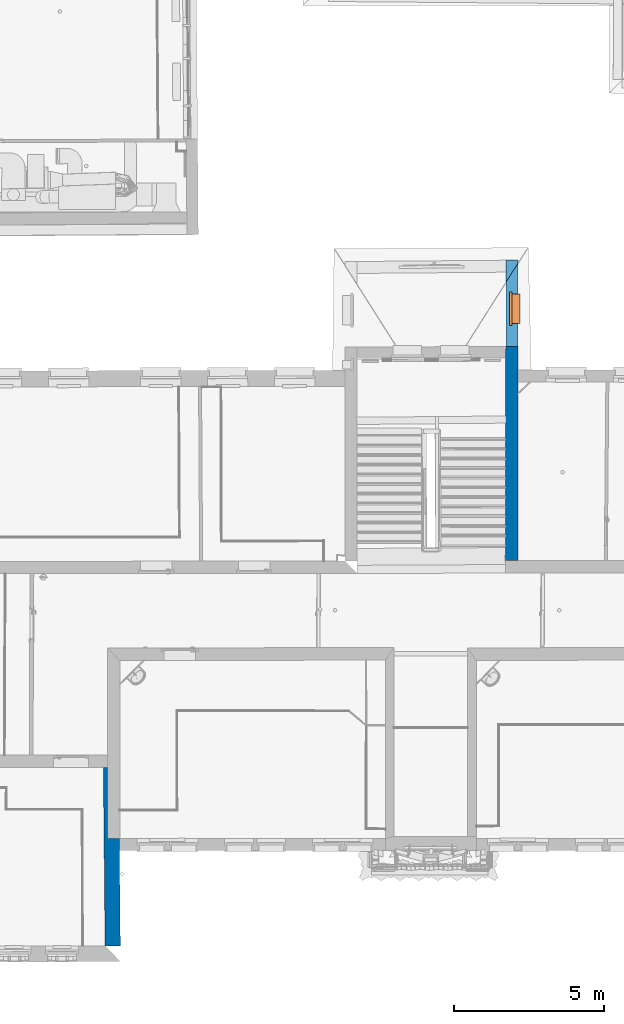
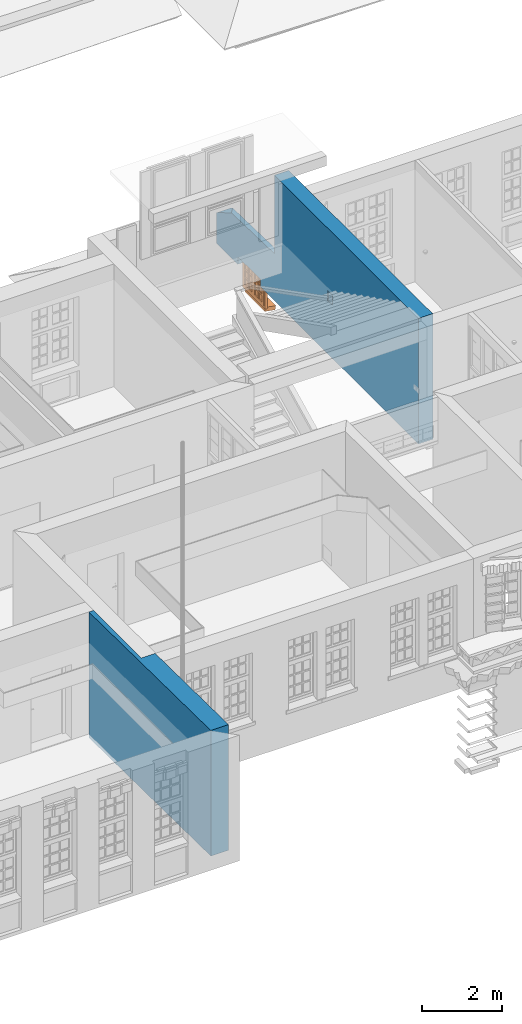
# One storey, part 66 of 158: 2 walls, 1 proxy, 1 opening.
"""IFC2X3 building model written with IfcOpenShell, lengths in metres."""

from ifc_helpers import new_model, entity, si_unit, converted_unit, derived_unit, money_unit, direction, frame, origin_with_axes, origin_2d_with_axis, place, context, subcontext, project, spatial, polyline, rectangle, outline, extrude, boolean, faceted_brep, source, transform, mapped, material, type_object, element, fill, save


model = new_model("IFC2X3")

# Units and contexts
model_context = context("Model", 3, precision=1e-05, world=origin_with_axes(), true_north=direction((0.0, 1.0)))
body_context = subcontext(model_context, "Body", "Model", "MODEL_VIEW")
ifc_project = project(units=[si_unit("LENGTHUNIT", "METRE"), si_unit("AREAUNIT", "SQUARE_METRE"), si_unit("VOLUMEUNIT", "CUBIC_METRE"), converted_unit("PLANEANGLEUNIT", "DEGREE", entity("IfcPlaneAngleMeasure", 0.0174532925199), si_unit("PLANEANGLEUNIT", "RADIAN"), dimensions=[0, 0, 0, 0, 0, 0, 0]), money_unit("EUR"), converted_unit("TIMEUNIT", "Year", entity("IfcTimeMeasure", 31556926.0), si_unit("TIMEUNIT", "SECOND"), dimensions=[0, 0, 1, 0, 0, 0, 0]), si_unit("MASSUNIT", "GRAM", prefix="KILO"), si_unit("THERMODYNAMICTEMPERATUREUNIT", "DEGREE_CELSIUS"), si_unit("LUMINOUSINTENSITYUNIT", "LUMEN"), si_unit("ENERGYUNIT", "JOULE", prefix="MEGA"), derived_unit("THERMALCONDUCTANCEUNIT", [(si_unit("POWERUNIT", "WATT"), 1), (si_unit("LENGTHUNIT", "METRE"), -1), (si_unit("THERMODYNAMICTEMPERATUREUNIT", "KELVIN"), -1)]), derived_unit("SPECIFICHEATCAPACITYUNIT", [(si_unit("ENERGYUNIT", "JOULE"), 1), (si_unit("MASSUNIT", "GRAM", prefix="KILO"), -1), (si_unit("THERMODYNAMICTEMPERATUREUNIT", "KELVIN"), -1)]), derived_unit("MASSDENSITYUNIT", [(si_unit("MASSUNIT", "GRAM", prefix="KILO"), 1), (si_unit("VOLUMEUNIT", "CUBIC_METRE"), -1)])], contexts=[model_context])

# Site, building, storey
site_placement = place(None, origin_with_axes())
site = spatial("IfcSite", under=ifc_project, at=site_placement, Name="Gelände", CompositionType="ELEMENT")
building_placement = place(site_placement, origin_with_axes())
building = spatial("IfcBuilding", under=site, at=building_placement, Name="Gebäude", CompositionType="ELEMENT")
storey_placement = place(building_placement, origin_with_axes())
storey = spatial("IfcBuildingStorey", under=building, at=storey_placement, Name="ERDGESCHOSS", CompositionType="ELEMENT", Elevation=0.0)

# Wall
ifc_material = material(Name="05_ALLGEMEIN - TRAGENDE BAUTEILE")
wall_type_1 = type_object("IfcWallType", Name="05_ALLGEMEIN - TRAGENDE BAUTEILE 510", PredefinedType="ELEMENTEDWALL")
wall_1_placement = place(storey_placement, frame((-17.7552910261, 6.28208154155, -0.21), z_axis=(0.0, 0.0, 1.0), x_axis=(-0.00971979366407, 0.99995276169, 0.0)))
element("IfcWall", 1, at=wall_1_placement, inside=storey, type_object=wall_type_1, material=ifc_material, Name="Wand-029", ObjectType="ELEMENTEDWALL", context=body_context, shape_type="CSG", body=[
    boolean("DIFFERENCE", boolean("DIFFERENCE", extrude(outline(polyline([(0.0, 0.0), (6.91708210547, 0.0), (6.91708210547, 0.51), (0.0, 0.51), (0.0, 0.0)])), origin_with_axes(), (0.0, 0.0, 1.0), 3.81), faceted_brep([(6.4960462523, 0.373654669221, 3.81), (4.12092826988, 0.398424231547, 3.81), (4.1170854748, 0.0, 3.81), (6.91708210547, 0.0, 3.81), (6.91708210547, 0.51, 3.81), (6.49707026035, 0.51, 3.81), (6.4960462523, 0.373654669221, 0.0), (4.12092826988, 0.398424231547, 0.0), (4.1170854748, 0.0, 0.0), (6.91708210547, 0.0, 0.0), (6.91708210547, 0.51, 0.0), (6.49707026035, 0.51, 0.0)], [[[0, 1, 2, 3, 4, 5]], [[1, 0, 6, 7]], [[8, 2, 1, 7]], [[2, 8, 9, 3]], [[3, 9, 10, 4]], [[11, 5, 4, 10]], [[0, 5, 11, 6]], [[6, 11, 10, 9, 8, 7]]])), faceted_brep([(0.530015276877, 0.0, 0.0), (0.530015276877, 0.0, 3.81), (0.0, 0.0, 3.81), (0.0, 0.0, 0.0), (0.533887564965, 0.51, 3.81), (0.533887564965, 0.51, 0.0), (0.0, 0.51, 3.81), (0.0, 0.51, 0.0)], [[[0, 1, 2, 3]], [[4, 1, 0, 5]], [[1, 4, 6, 2]], [[6, 7, 3, 2]], [[5, 0, 3, 7]], [[4, 5, 7, 6]]])),
])

# Wall, opening, proxy
wall_type_2 = type_object("IfcWallType", Name="05_ALLGEMEIN - TRAGENDE BAUTEILE 410", PredefinedType="ELEMENTEDWALL")
wall_2_placement = place(storey_placement, frame((-4.46533827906, 19.2762494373, -0.21), z_axis=(0.0, 0.0, 1.0), x_axis=(0.000440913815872, 0.999999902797, 0.0)))
wall_2 = element("IfcWall", 2, at=wall_2_placement, inside=storey, type_object=wall_type_2, material=ifc_material, Name="Wand-038", ObjectType="ELEMENTEDWALL", context=body_context, shape_type="CSG", body=[
    boolean("DIFFERENCE", boolean("DIFFERENCE", boolean("DIFFERENCE", extrude(outline(polyline([(-0.000300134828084, 0.0), (10.4657454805, 0.0), (10.4657454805, 0.41), (-0.000300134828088, 0.41), (-0.000300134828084, 0.0)])), origin_with_axes(), (0.0, 0.0, 1.0), 3.81), faceted_brep([(4.68833772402, 0.41, 1.61043633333), (4.68833772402, 0.41, 1.92000015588), (7.19598601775, 0.41, 1.92), (7.19598601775, 0.41, 1.83), (4.92919751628, 0.410000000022, 1.83), (4.92919751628, 0.41, 1.61043633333), (4.68842437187, 0.392243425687, 1.61043633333), (4.68842437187, 0.392243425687, 1.92000015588), (4.9292784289, 0.393418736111, 1.92000015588), (4.92919948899, 0.409595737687, 1.92000015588), (4.92919948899, 0.409595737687, 1.83), (4.9292784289, 0.393418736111, 1.61043633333)], [[[0, 1, 2, 3, 4, 5]], [[1, 0, 6, 7]], [[2, 1, 7, 8, 9]], [[3, 2, 9, 10]], [[4, 3, 10]], [[5, 4, 10, 9, 8, 11]], [[0, 5, 11, 6]], [[8, 7, 6, 11]]])), faceted_brep([(0.414615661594, 0.0, 0.0), (0.414615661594, 0.0, 3.81), (-0.000300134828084, 0.0, 3.81), (-0.000300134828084, 0.0, 0.0), (0.414315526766, 0.41, 3.81), (0.414315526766, 0.41, 0.0), (-0.000300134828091, 0.41, 3.81), (-0.000300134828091, 0.41, 0.0)], [[[0, 1, 2, 3]], [[4, 1, 0, 5]], [[1, 4, 6, 2]], [[6, 7, 3, 2]], [[5, 0, 3, 7]], [[4, 5, 7, 6]]])), faceted_brep([(7.58287212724, -1.33577593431e-10, 1.05887380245), (10.3647588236, -1.091498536e-08, 0.983076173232), (10.4657454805, 0.0, 0.922282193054), (10.4657454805, 0.0, 3.81), (7.58287212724, -1.33577593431e-10, 3.81), (7.58050945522, 0.41, 1.43028122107), (9.71842443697, 0.409999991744, 1.37202978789), (10.4620406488, 0.41, 0.924372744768), (10.4657454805, 0.0, 0.0), (10.4657454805, 0.41, 0.0), (10.4657454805, 0.41, 3.81), (7.58050945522, 0.41, 3.81), (10.4620406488, 0.41, 0.0)], [[[0, 1, 2, 3, 4]], [[1, 0, 5, 6]], [[2, 1, 6, 7]], [[2, 8, 9, 10, 3]], [[11, 4, 3, 10]], [[0, 4, 11, 5]], [[5, 11, 10, 9, 12, 7, 6]], [[8, 2, 7, 12]], [[8, 12, 9]]])),
])
opening_placement = place(wall_2_placement, frame((8.83731779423, 0.0, -0.725295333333), z_axis=(0.0, 0.0, 1.0), x_axis=(1.0, 0.0, 0.0)))
opening = element("IfcOpeningElement", 3, at=opening_placement, cuts=wall_2, Name="Fenster-015", context=body_context, shape_type="SweptSolid", body=[
    extrude(rectangle(XDim=0.991326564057, YDim=0.884032, at=origin_2d_with_axis()), frame((0.0, 0.208421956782, 0.442016), z_axis=(0.0, 1.0, 0.0), x_axis=(1.0, 0.0, 0.0)), (0.0, 0.0, -1.0), 0.618421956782),
    extrude(rectangle(XDim=1.13132656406, YDim=0.954032, at=origin_2d_with_axis()), frame((0.0, 0.208421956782, 0.477016), z_axis=(0.0, -1.0, 0.0), x_axis=(1.0, 0.0, 0.0)), (0.0, 0.0, -1.0), 0.611578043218),
    extrude(rectangle(XDim=0.991326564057, YDim=0.162128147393, at=origin_2d_with_axis()), frame((0.0, 0.249259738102, -0.0810640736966), z_axis=(0.0, 1.0, 0.0), x_axis=(1.0, 0.0, 0.0)), (0.0, 0.0, -1.0), 0.45083778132),
])
building_element_proxy_type = type_object("IfcBuildingElementProxyType", Name="2-Flügelfenster 25", PredefinedType="NOTDEFINED")
shared_shape = source(origin_with_axes(), body_context, "Body", "Brep", [
    faceted_brep([(-0.495663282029, -0.05, 0.0), (-0.495663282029, -0.349259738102, -0.0527675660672), (0.495663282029, -0.349259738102, -0.0527675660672), (0.495663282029, -0.05, 0.0), (-0.495663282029, -0.02916221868, -0.118176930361), (-0.495663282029, -0.328421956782, -0.170944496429), (0.495663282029, -0.328421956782, -0.170944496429), (0.495663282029, -0.02916221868, -0.118176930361)], [[[0, 1, 2, 3]], [[0, 4, 5, 1]], [[1, 5, 6, 2]], [[3, 2, 6, 7]], [[4, 0, 3, 7]], [[5, 4, 7, 6]]]),
    faceted_brep([(-0.565663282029, -0.07, 0.0), (-0.565663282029, 0.0, 0.0), (-0.485663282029, 0.0, 0.08), (-0.485663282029, -0.07, 0.08), (-0.565663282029, -0.07, 0.954032), (-0.565663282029, 0.0, 0.954032), (-0.485663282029, 0.0, 0.874032), (-0.485663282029, -0.07, 0.874032)], [[[0, 1, 2, 3]], [[4, 5, 1, 0]], [[1, 5, 6, 2]], [[3, 2, 6, 7]], [[0, 3, 7, 4]], [[7, 6, 5, 4]]]),
    faceted_brep([(0.565663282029, -0.07, 0.0), (0.565663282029, 0.0, 0.0), (0.565663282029, 0.0, 0.954032), (0.565663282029, -0.07, 0.954032), (0.485663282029, -0.07, 0.08), (0.485663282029, 0.0, 0.08), (0.485663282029, 0.0, 0.874032), (0.485663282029, -0.07, 0.874032)], [[[0, 1, 2, 3]], [[4, 5, 1, 0]], [[1, 5, 6, 2]], [[3, 2, 6, 7]], [[0, 3, 7, 4]], [[7, 6, 5, 4]]]),
    faceted_brep([(-0.565663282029, -0.07, 0.0), (-0.565663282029, 0.0, 0.0), (0.565663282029, 0.0, 0.0), (0.565663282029, -0.07, 0.0), (-0.485663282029, -0.07, 0.08), (-0.485663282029, 0.0, 0.08), (0.0, 0.0, 0.08), (0.485663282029, 0.0, 0.08), (0.485663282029, -0.07, 0.08), (0.0, -0.07, 0.08)], [[[0, 1, 2, 3]], [[4, 5, 1, 0]], [[1, 5, 6, 7, 2]], [[3, 2, 7, 8]], [[0, 3, 8, 9, 4]], [[9, 6, 5, 4]], [[8, 7, 6, 9]]]),
    faceted_brep([(-0.565663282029, -0.07, 0.954032), (-0.565663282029, 0.0, 0.954032), (-0.485663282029, 0.0, 0.874032), (-0.485663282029, -0.07, 0.874032), (0.565663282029, -0.07, 0.954032), (0.565663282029, 0.0, 0.954032), (0.485663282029, 0.0, 0.874032), (0.0, 0.0, 0.874032), (0.0, -0.07, 0.874032), (0.485663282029, -0.07, 0.874032)], [[[0, 1, 2, 3]], [[4, 5, 1, 0]], [[1, 5, 6, 7, 2]], [[3, 2, 7, 8]], [[0, 3, 8, 9, 4]], [[9, 6, 5, 4]], [[8, 7, 6, 9]]]),
    faceted_brep([(-0.505663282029, 0.0, 0.06), (-0.505663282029, 0.013, 0.06), (-0.425663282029, 0.013, 0.14), (-0.425663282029, 0.0, 0.14), (-0.505663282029, 0.0, 0.894032), (-0.505663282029, 0.013, 0.894032), (-0.425663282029, 0.013, 0.814032), (-0.425663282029, 0.0, 0.814032)], [[[0, 1, 2, 3]], [[4, 5, 1, 0]], [[1, 5, 6, 2]], [[3, 2, 6, 7]], [[0, 3, 7, 4]], [[7, 6, 5, 4]]]),
    faceted_brep([(-0.01, 0.0, 0.06), (-0.01, 0.013, 0.06), (-0.01, 0.013, 0.894032), (-0.01, 0.0, 0.894032), (-0.07, 0.0, 0.14), (-0.07, 0.013, 0.14), (-0.07, 0.013, 0.814032), (-0.07, 0.0, 0.814032)], [[[0, 1, 2, 3]], [[4, 5, 1, 0]], [[1, 5, 6, 2]], [[3, 2, 6, 7]], [[0, 3, 7, 4]], [[7, 6, 5, 4]]]),
    faceted_brep([(-0.505663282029, 0.0, 0.06), (-0.505663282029, 0.013, 0.06), (-0.01, 0.013, 0.06), (-0.01, 0.0, 0.06), (-0.425663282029, 0.0, 0.14), (-0.425663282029, 0.013, 0.14), (-0.07, 0.013, 0.14), (-0.07, 0.0, 0.14)], [[[0, 1, 2, 3]], [[4, 5, 1, 0]], [[1, 5, 6, 2]], [[3, 2, 6, 7]], [[0, 3, 7, 4]], [[7, 6, 5, 4]]]),
    faceted_brep([(-0.505663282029, 0.0, 0.894032), (-0.505663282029, 0.013, 0.894032), (-0.425663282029, 0.013, 0.814032), (-0.425663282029, 0.0, 0.814032), (-0.01, 0.0, 0.894032), (-0.01, 0.013, 0.894032), (-0.07, 0.013, 0.814032), (-0.07, 0.0, 0.814032)], [[[0, 1, 2, 3]], [[4, 5, 1, 0]], [[1, 5, 6, 2]], [[3, 2, 6, 7]], [[0, 3, 7, 4]], [[7, 6, 5, 4]]]),
    faceted_brep([(-0.485663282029, -0.057, 0.08), (-0.485663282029, 0.0, 0.08), (-0.425663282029, 0.0, 0.14), (-0.425663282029, -0.057, 0.14), (-0.485663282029, -0.057, 0.874032), (-0.485663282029, 0.0, 0.874032), (-0.425663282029, 0.0, 0.814032), (-0.425663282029, -0.057, 0.814032)], [[[0, 1, 2, 3]], [[4, 5, 1, 0]], [[1, 5, 6, 2]], [[3, 2, 6, 7]], [[0, 3, 7, 4]], [[7, 6, 5, 4]]]),
    faceted_brep([(0.01, -0.057, 0.08), (0.01, 0.0, 0.08), (0.01, 0.0, 0.874032), (0.01, -0.057, 0.874032), (-0.07, -0.057, 0.14), (-0.07, 0.0, 0.14), (-0.07, 0.0, 0.814032), (-0.07, -0.057, 0.814032)], [[[0, 1, 2, 3]], [[4, 5, 1, 0]], [[1, 5, 6, 2]], [[3, 2, 6, 7]], [[0, 3, 7, 4]], [[7, 6, 5, 4]]]),
    faceted_brep([(-0.485663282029, -0.057, 0.08), (-0.485663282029, 0.0, 0.08), (0.01, 0.0, 0.08), (0.01, -0.057, 0.08), (-0.425663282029, -0.057, 0.14), (-0.425663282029, 0.0, 0.14), (-0.07, 0.0, 0.14), (-0.07, -0.057, 0.14)], [[[0, 1, 2, 3]], [[4, 5, 1, 0]], [[1, 5, 6, 2]], [[3, 2, 6, 7]], [[0, 3, 7, 4]], [[7, 6, 5, 4]]]),
    faceted_brep([(-0.485663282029, -0.057, 0.874032), (-0.485663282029, 0.0, 0.874032), (-0.425663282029, 0.0, 0.814032), (-0.425663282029, -0.057, 0.814032), (0.01, -0.057, 0.874032), (0.01, 0.0, 0.874032), (-0.07, 0.0, 0.814032), (-0.07, -0.057, 0.814032)], [[[0, 1, 2, 3]], [[4, 5, 1, 0]], [[1, 5, 6, 2]], [[3, 2, 6, 7]], [[0, 3, 7, 4]], [[7, 6, 5, 4]]]),
    faceted_brep([(-0.265331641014, -0.057, 0.14), (-0.265331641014, -0.022, 0.14), (-0.230331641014, -0.022, 0.14), (-0.230331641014, -0.057, 0.14), (-0.265331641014, -0.057, 0.814032), (-0.265331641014, -0.022, 0.814032), (-0.230331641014, -0.022, 0.814032), (-0.230331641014, -0.057, 0.814032)], [[[0, 1, 2, 3]], [[4, 5, 1, 0]], [[1, 5, 6, 2]], [[3, 2, 6, 7]], [[0, 3, 7, 4]], [[7, 6, 5, 4]]]),
    faceted_brep([(-0.265331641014, -0.022, 0.14), (-0.265331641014, 0.013, 0.14), (-0.230331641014, 0.013, 0.14), (-0.230331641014, -0.022, 0.14), (-0.265331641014, -0.022, 0.814032), (-0.265331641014, 0.013, 0.814032), (-0.230331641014, 0.013, 0.814032), (-0.230331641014, -0.022, 0.814032)], [[[0, 1, 2, 3]], [[4, 5, 1, 0]], [[1, 5, 6, 2]], [[3, 2, 6, 7]], [[0, 3, 7, 4]], [[7, 6, 5, 4]]]),
    faceted_brep([(-0.265331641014, -0.057, 0.341344), (-0.265331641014, -0.057, 0.376344), (-0.425663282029, -0.057, 0.376344), (-0.425663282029, -0.057, 0.341344), (-0.265331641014, -0.022, 0.376344), (-0.265331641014, -0.022, 0.341344), (-0.425663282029, -0.022, 0.376344), (-0.425663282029, -0.022, 0.341344)], [[[0, 1, 2, 3]], [[4, 1, 0, 5]], [[1, 4, 6, 2]], [[6, 7, 3, 2]], [[5, 0, 3, 7]], [[4, 5, 7, 6]]]),
    faceted_brep([(-0.230331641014, -0.022, 0.376344), (-0.230331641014, -0.057, 0.376344), (-0.07, -0.057, 0.376344), (-0.07, -0.022, 0.376344), (-0.230331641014, -0.057, 0.341344), (-0.230331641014, -0.022, 0.341344), (-0.07, -0.057, 0.341344), (-0.07, -0.022, 0.341344)], [[[0, 1, 2, 3]], [[4, 1, 0, 5]], [[1, 4, 6, 2]], [[7, 3, 2, 6]], [[5, 0, 3, 7]], [[4, 5, 7, 6]]]),
    faceted_brep([(-0.265331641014, -0.022, 0.341344), (-0.265331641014, -0.022, 0.376344), (-0.425663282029, -0.022, 0.376344), (-0.425663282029, -0.022, 0.341344), (-0.265331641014, 0.013, 0.376344), (-0.265331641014, 0.013, 0.341344), (-0.425663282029, 0.013, 0.376344), (-0.425663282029, 0.013, 0.341344)], [[[0, 1, 2, 3]], [[4, 1, 0, 5]], [[1, 4, 6, 2]], [[6, 7, 3, 2]], [[5, 0, 3, 7]], [[4, 5, 7, 6]]]),
    faceted_brep([(-0.230331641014, 0.013, 0.376344), (-0.230331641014, -0.022, 0.376344), (-0.07, -0.022, 0.376344), (-0.07, 0.013, 0.376344), (-0.230331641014, -0.022, 0.341344), (-0.230331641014, 0.013, 0.341344), (-0.07, -0.022, 0.341344), (-0.07, 0.013, 0.341344)], [[[0, 1, 2, 3]], [[4, 1, 0, 5]], [[1, 4, 6, 2]], [[7, 3, 2, 6]], [[5, 0, 3, 7]], [[4, 5, 7, 6]]]),
    faceted_brep([(-0.265331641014, -0.057, 0.577688), (-0.265331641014, -0.057, 0.612688), (-0.425663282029, -0.057, 0.612688), (-0.425663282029, -0.057, 0.577688), (-0.265331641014, -0.022, 0.612688), (-0.265331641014, -0.022, 0.577688), (-0.425663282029, -0.022, 0.612688), (-0.425663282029, -0.022, 0.577688)], [[[0, 1, 2, 3]], [[4, 1, 0, 5]], [[1, 4, 6, 2]], [[6, 7, 3, 2]], [[5, 0, 3, 7]], [[4, 5, 7, 6]]]),
    faceted_brep([(-0.230331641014, -0.022, 0.612688), (-0.230331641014, -0.057, 0.612688), (-0.07, -0.057, 0.612688), (-0.07, -0.022, 0.612688), (-0.230331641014, -0.057, 0.577688), (-0.230331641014, -0.022, 0.577688), (-0.07, -0.057, 0.577688), (-0.07, -0.022, 0.577688)], [[[0, 1, 2, 3]], [[4, 1, 0, 5]], [[1, 4, 6, 2]], [[7, 3, 2, 6]], [[5, 0, 3, 7]], [[4, 5, 7, 6]]]),
    faceted_brep([(-0.265331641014, -0.022, 0.577688), (-0.265331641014, -0.022, 0.612688), (-0.425663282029, -0.022, 0.612688), (-0.425663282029, -0.022, 0.577688), (-0.265331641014, 0.013, 0.612688), (-0.265331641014, 0.013, 0.577688), (-0.425663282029, 0.013, 0.612688), (-0.425663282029, 0.013, 0.577688)], [[[0, 1, 2, 3]], [[4, 1, 0, 5]], [[1, 4, 6, 2]], [[6, 7, 3, 2]], [[5, 0, 3, 7]], [[4, 5, 7, 6]]]),
    faceted_brep([(-0.230331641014, 0.013, 0.612688), (-0.230331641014, -0.022, 0.612688), (-0.07, -0.022, 0.612688), (-0.07, 0.013, 0.612688), (-0.230331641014, -0.022, 0.577688), (-0.230331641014, 0.013, 0.577688), (-0.07, -0.022, 0.577688), (-0.07, 0.013, 0.577688)], [[[0, 1, 2, 3]], [[4, 1, 0, 5]], [[1, 4, 6, 2]], [[7, 3, 2, 6]], [[5, 0, 3, 7]], [[4, 5, 7, 6]]]),
    faceted_brep([(-0.265331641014, -0.017, 0.577688), (-0.265331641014, -0.027, 0.577688), (-0.265331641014, -0.027, 0.376344), (-0.265331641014, -0.017, 0.376344), (-0.425663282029, -0.027, 0.577688), (-0.425663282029, -0.017, 0.577688), (-0.425663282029, -0.027, 0.376344), (-0.425663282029, -0.017, 0.376344)], [[[0, 1, 2, 3]], [[4, 1, 0, 5]], [[1, 4, 6, 2]], [[2, 6, 7, 3]], [[5, 0, 3, 7]], [[4, 5, 7, 6]]]),
    faceted_brep([(-0.07, -0.027, 0.14), (-0.07, -0.017, 0.14), (-0.07, -0.017, 0.341344), (-0.07, -0.027, 0.341344), (-0.230331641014, -0.027, 0.14), (-0.230331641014, -0.017, 0.14), (-0.230331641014, -0.017, 0.341344), (-0.230331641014, -0.027, 0.341344)], [[[0, 1, 2, 3]], [[0, 4, 5, 1]], [[1, 5, 6, 2]], [[2, 6, 7, 3]], [[4, 0, 3, 7]], [[5, 4, 7, 6]]]),
    faceted_brep([(-0.265331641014, -0.027, 0.14), (-0.265331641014, -0.017, 0.14), (-0.265331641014, -0.017, 0.341344), (-0.265331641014, -0.027, 0.341344), (-0.425663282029, -0.017, 0.14), (-0.425663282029, -0.027, 0.14), (-0.425663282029, -0.017, 0.341344), (-0.425663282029, -0.027, 0.341344)], [[[0, 1, 2, 3]], [[4, 1, 0, 5]], [[1, 4, 6, 2]], [[2, 6, 7, 3]], [[5, 0, 3, 7]], [[4, 5, 7, 6]]]),
    faceted_brep([(-0.07, -0.017, 0.577688), (-0.07, -0.027, 0.577688), (-0.07, -0.027, 0.376344), (-0.07, -0.017, 0.376344), (-0.230331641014, -0.027, 0.577688), (-0.230331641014, -0.017, 0.577688), (-0.230331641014, -0.027, 0.376344), (-0.230331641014, -0.017, 0.376344)], [[[0, 1, 2, 3]], [[4, 1, 0, 5]], [[1, 4, 6, 2]], [[2, 6, 7, 3]], [[5, 0, 3, 7]], [[4, 5, 7, 6]]]),
    faceted_brep([(-0.425663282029, -0.027, 0.612688), (-0.265331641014, -0.027, 0.612688), (-0.265331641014, -0.027, 0.814032), (-0.425663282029, -0.027, 0.814032), (-0.265331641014, -0.017, 0.612688), (-0.425663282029, -0.017, 0.612688), (-0.265331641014, -0.017, 0.814032), (-0.425663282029, -0.017, 0.814032)], [[[0, 1, 2, 3]], [[4, 1, 0, 5]], [[1, 4, 6, 2]], [[7, 3, 2, 6]], [[5, 0, 3, 7]], [[4, 5, 7, 6]]]),
    faceted_brep([(-0.230331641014, -0.027, 0.612688), (-0.07, -0.027, 0.612688), (-0.07, -0.027, 0.814032), (-0.230331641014, -0.027, 0.814032), (-0.07, -0.017, 0.612688), (-0.230331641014, -0.017, 0.612688), (-0.07, -0.017, 0.814032), (-0.230331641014, -0.017, 0.814032)], [[[0, 1, 2, 3]], [[4, 1, 0, 5]], [[1, 4, 6, 2]], [[2, 6, 7, 3]], [[5, 0, 3, 7]], [[4, 5, 7, 6]]]),
    faceted_brep([(-0.01, 0.0, 0.06), (-0.01, 0.013, 0.06), (0.07, 0.013, 0.14), (0.07, 0.0, 0.14), (-0.01, 0.0, 0.894032), (-0.01, 0.013, 0.894032), (0.07, 0.013, 0.814032), (0.07, 0.0, 0.814032)], [[[0, 1, 2, 3]], [[4, 5, 1, 0]], [[1, 5, 6, 2]], [[3, 2, 6, 7]], [[0, 3, 7, 4]], [[7, 6, 5, 4]]]),
    faceted_brep([(0.505663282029, 0.0, 0.06), (0.425663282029, 0.0, 0.14), (0.425663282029, 0.013, 0.14), (0.505663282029, 0.013, 0.06), (0.505663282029, 0.0, 0.894032), (0.425663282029, 0.0, 0.814032), (0.425663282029, 0.013, 0.814032), (0.505663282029, 0.013, 0.894032)], [[[0, 1, 2, 3]], [[0, 4, 5, 1]], [[1, 5, 6, 2]], [[3, 2, 6, 7]], [[4, 0, 3, 7]], [[5, 4, 7, 6]]]),
    faceted_brep([(-0.01, 0.0, 0.06), (-0.01, 0.013, 0.06), (0.505663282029, 0.013, 0.06), (0.505663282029, 0.0, 0.06), (0.07, 0.0, 0.14), (0.07, 0.013, 0.14), (0.425663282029, 0.013, 0.14), (0.425663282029, 0.0, 0.14)], [[[0, 1, 2, 3]], [[4, 5, 1, 0]], [[1, 5, 6, 2]], [[3, 2, 6, 7]], [[0, 3, 7, 4]], [[7, 6, 5, 4]]]),
    faceted_brep([(-0.01, 0.0, 0.894032), (0.505663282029, 0.0, 0.894032), (0.505663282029, 0.013, 0.894032), (-0.01, 0.013, 0.894032), (0.07, 0.0, 0.814032), (0.425663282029, 0.0, 0.814032), (0.425663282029, 0.013, 0.814032), (0.07, 0.013, 0.814032)], [[[0, 1, 2, 3]], [[0, 4, 5, 1]], [[1, 5, 6, 2]], [[3, 2, 6, 7]], [[4, 0, 3, 7]], [[5, 4, 7, 6]]]),
    faceted_brep([(0.01, -0.057, 0.08), (0.01, 0.0, 0.08), (0.07, 0.0, 0.14), (0.07, -0.057, 0.14), (0.01, -0.057, 0.874032), (0.01, 0.0, 0.874032), (0.07, 0.0, 0.814032), (0.07, -0.057, 0.814032)], [[[0, 1, 2, 3]], [[4, 5, 1, 0]], [[1, 5, 6, 2]], [[3, 2, 6, 7]], [[0, 3, 7, 4]], [[7, 6, 5, 4]]]),
    faceted_brep([(0.485663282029, -0.057, 0.08), (0.425663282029, -0.057, 0.14), (0.425663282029, 0.0, 0.14), (0.485663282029, 0.0, 0.08), (0.485663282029, -0.057, 0.874032), (0.425663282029, -0.057, 0.814032), (0.425663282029, 0.0, 0.814032), (0.485663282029, 0.0, 0.874032)], [[[0, 1, 2, 3]], [[0, 4, 5, 1]], [[1, 5, 6, 2]], [[3, 2, 6, 7]], [[4, 0, 3, 7]], [[5, 4, 7, 6]]]),
    faceted_brep([(0.01, -0.057, 0.08), (0.01, 0.0, 0.08), (0.485663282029, 0.0, 0.08), (0.485663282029, -0.057, 0.08), (0.07, -0.057, 0.14), (0.07, 0.0, 0.14), (0.425663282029, 0.0, 0.14), (0.425663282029, -0.057, 0.14)], [[[0, 1, 2, 3]], [[4, 5, 1, 0]], [[1, 5, 6, 2]], [[3, 2, 6, 7]], [[0, 3, 7, 4]], [[7, 6, 5, 4]]]),
    faceted_brep([(0.01, -0.057, 0.874032), (0.485663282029, -0.057, 0.874032), (0.485663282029, 0.0, 0.874032), (0.01, 0.0, 0.874032), (0.07, -0.057, 0.814032), (0.425663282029, -0.057, 0.814032), (0.425663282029, 0.0, 0.814032), (0.07, 0.0, 0.814032)], [[[0, 1, 2, 3]], [[0, 4, 5, 1]], [[1, 5, 6, 2]], [[3, 2, 6, 7]], [[4, 0, 3, 7]], [[5, 4, 7, 6]]]),
    faceted_brep([(0.230331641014, -0.057, 0.14), (0.230331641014, -0.022, 0.14), (0.265331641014, -0.022, 0.14), (0.265331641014, -0.057, 0.14), (0.230331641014, -0.057, 0.814032), (0.230331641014, -0.022, 0.814032), (0.265331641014, -0.022, 0.814032), (0.265331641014, -0.057, 0.814032)], [[[0, 1, 2, 3]], [[4, 5, 1, 0]], [[1, 5, 6, 2]], [[3, 2, 6, 7]], [[0, 3, 7, 4]], [[7, 6, 5, 4]]]),
    faceted_brep([(0.230331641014, -0.022, 0.14), (0.230331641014, 0.013, 0.14), (0.265331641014, 0.013, 0.14), (0.265331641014, -0.022, 0.14), (0.230331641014, -0.022, 0.814032), (0.230331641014, 0.013, 0.814032), (0.265331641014, 0.013, 0.814032), (0.265331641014, -0.022, 0.814032)], [[[0, 1, 2, 3]], [[4, 5, 1, 0]], [[1, 5, 6, 2]], [[3, 2, 6, 7]], [[0, 3, 7, 4]], [[7, 6, 5, 4]]]),
    faceted_brep([(0.230331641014, -0.057, 0.341344), (0.230331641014, -0.057, 0.376344), (0.07, -0.057, 0.376344), (0.07, -0.057, 0.341344), (0.230331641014, -0.022, 0.376344), (0.230331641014, -0.022, 0.341344), (0.07, -0.022, 0.376344), (0.07, -0.022, 0.341344)], [[[0, 1, 2, 3]], [[4, 1, 0, 5]], [[1, 4, 6, 2]], [[6, 7, 3, 2]], [[5, 0, 3, 7]], [[4, 5, 7, 6]]]),
    faceted_brep([(0.265331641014, -0.022, 0.376344), (0.265331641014, -0.057, 0.376344), (0.425663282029, -0.057, 0.376344), (0.425663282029, -0.022, 0.376344), (0.265331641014, -0.057, 0.341344), (0.265331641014, -0.022, 0.341344), (0.425663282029, -0.057, 0.341344), (0.425663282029, -0.022, 0.341344)], [[[0, 1, 2, 3]], [[4, 1, 0, 5]], [[1, 4, 6, 2]], [[7, 3, 2, 6]], [[5, 0, 3, 7]], [[4, 5, 7, 6]]]),
    faceted_brep([(0.230331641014, -0.022, 0.341344), (0.230331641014, -0.022, 0.376344), (0.07, -0.022, 0.376344), (0.07, -0.022, 0.341344), (0.230331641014, 0.013, 0.376344), (0.230331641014, 0.013, 0.341344), (0.07, 0.013, 0.376344), (0.07, 0.013, 0.341344)], [[[0, 1, 2, 3]], [[4, 1, 0, 5]], [[1, 4, 6, 2]], [[6, 7, 3, 2]], [[5, 0, 3, 7]], [[4, 5, 7, 6]]]),
    faceted_brep([(0.265331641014, 0.013, 0.376344), (0.265331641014, -0.022, 0.376344), (0.425663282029, -0.022, 0.376344), (0.425663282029, 0.013, 0.376344), (0.265331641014, -0.022, 0.341344), (0.265331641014, 0.013, 0.341344), (0.425663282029, -0.022, 0.341344), (0.425663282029, 0.013, 0.341344)], [[[0, 1, 2, 3]], [[4, 1, 0, 5]], [[1, 4, 6, 2]], [[7, 3, 2, 6]], [[5, 0, 3, 7]], [[4, 5, 7, 6]]]),
    faceted_brep([(0.230331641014, -0.057, 0.577688), (0.230331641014, -0.057, 0.612688), (0.07, -0.057, 0.612688), (0.07, -0.057, 0.577688), (0.230331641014, -0.022, 0.612688), (0.230331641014, -0.022, 0.577688), (0.07, -0.022, 0.612688), (0.07, -0.022, 0.577688)], [[[0, 1, 2, 3]], [[4, 1, 0, 5]], [[1, 4, 6, 2]], [[6, 7, 3, 2]], [[5, 0, 3, 7]], [[4, 5, 7, 6]]]),
    faceted_brep([(0.265331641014, -0.022, 0.612688), (0.265331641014, -0.057, 0.612688), (0.425663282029, -0.057, 0.612688), (0.425663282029, -0.022, 0.612688), (0.265331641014, -0.057, 0.577688), (0.265331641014, -0.022, 0.577688), (0.425663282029, -0.057, 0.577688), (0.425663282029, -0.022, 0.577688)], [[[0, 1, 2, 3]], [[4, 1, 0, 5]], [[1, 4, 6, 2]], [[7, 3, 2, 6]], [[5, 0, 3, 7]], [[4, 5, 7, 6]]]),
    faceted_brep([(0.230331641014, -0.022, 0.577688), (0.230331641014, -0.022, 0.612688), (0.07, -0.022, 0.612688), (0.07, -0.022, 0.577688), (0.230331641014, 0.013, 0.612688), (0.230331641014, 0.013, 0.577688), (0.07, 0.013, 0.612688), (0.07, 0.013, 0.577688)], [[[0, 1, 2, 3]], [[4, 1, 0, 5]], [[1, 4, 6, 2]], [[6, 7, 3, 2]], [[5, 0, 3, 7]], [[4, 5, 7, 6]]]),
    faceted_brep([(0.265331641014, 0.013, 0.612688), (0.265331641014, -0.022, 0.612688), (0.425663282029, -0.022, 0.612688), (0.425663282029, 0.013, 0.612688), (0.265331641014, -0.022, 0.577688), (0.265331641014, 0.013, 0.577688), (0.425663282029, -0.022, 0.577688), (0.425663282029, 0.013, 0.577688)], [[[0, 1, 2, 3]], [[4, 1, 0, 5]], [[1, 4, 6, 2]], [[7, 3, 2, 6]], [[5, 0, 3, 7]], [[4, 5, 7, 6]]]),
    faceted_brep([(0.230331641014, -0.017, 0.577688), (0.230331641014, -0.027, 0.577688), (0.230331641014, -0.027, 0.376344), (0.230331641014, -0.017, 0.376344), (0.07, -0.027, 0.577688), (0.07, -0.017, 0.577688), (0.07, -0.027, 0.376344), (0.07, -0.017, 0.376344)], [[[0, 1, 2, 3]], [[4, 1, 0, 5]], [[1, 4, 6, 2]], [[2, 6, 7, 3]], [[5, 0, 3, 7]], [[4, 5, 7, 6]]]),
    faceted_brep([(0.425663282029, -0.027, 0.14), (0.425663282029, -0.017, 0.14), (0.425663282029, -0.017, 0.341344), (0.425663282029, -0.027, 0.341344), (0.265331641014, -0.027, 0.14), (0.265331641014, -0.017, 0.14), (0.265331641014, -0.017, 0.341344), (0.265331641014, -0.027, 0.341344)], [[[0, 1, 2, 3]], [[0, 4, 5, 1]], [[1, 5, 6, 2]], [[2, 6, 7, 3]], [[4, 0, 3, 7]], [[5, 4, 7, 6]]]),
    faceted_brep([(0.230331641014, -0.027, 0.14), (0.230331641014, -0.017, 0.14), (0.230331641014, -0.017, 0.341344), (0.230331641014, -0.027, 0.341344), (0.07, -0.017, 0.14), (0.07, -0.027, 0.14), (0.07, -0.017, 0.341344), (0.07, -0.027, 0.341344)], [[[0, 1, 2, 3]], [[4, 1, 0, 5]], [[1, 4, 6, 2]], [[2, 6, 7, 3]], [[5, 0, 3, 7]], [[4, 5, 7, 6]]]),
    faceted_brep([(0.425663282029, -0.017, 0.577688), (0.425663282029, -0.027, 0.577688), (0.425663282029, -0.027, 0.376344), (0.425663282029, -0.017, 0.376344), (0.265331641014, -0.027, 0.577688), (0.265331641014, -0.017, 0.577688), (0.265331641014, -0.027, 0.376344), (0.265331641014, -0.017, 0.376344)], [[[0, 1, 2, 3]], [[4, 1, 0, 5]], [[1, 4, 6, 2]], [[2, 6, 7, 3]], [[5, 0, 3, 7]], [[4, 5, 7, 6]]]),
    faceted_brep([(0.07, -0.027, 0.612688), (0.230331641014, -0.027, 0.612688), (0.230331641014, -0.027, 0.814032), (0.07, -0.027, 0.814032), (0.230331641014, -0.017, 0.612688), (0.07, -0.017, 0.612688), (0.230331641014, -0.017, 0.814032), (0.07, -0.017, 0.814032)], [[[0, 1, 2, 3]], [[4, 1, 0, 5]], [[1, 4, 6, 2]], [[7, 3, 2, 6]], [[5, 0, 3, 7]], [[4, 5, 7, 6]]]),
    faceted_brep([(0.265331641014, -0.027, 0.612688), (0.425663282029, -0.027, 0.612688), (0.425663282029, -0.027, 0.814032), (0.265331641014, -0.027, 0.814032), (0.425663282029, -0.017, 0.612688), (0.265331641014, -0.017, 0.612688), (0.425663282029, -0.017, 0.814032), (0.265331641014, -0.017, 0.814032)], [[[0, 1, 2, 3]], [[4, 1, 0, 5]], [[1, 4, 6, 2]], [[2, 6, 7, 3]], [[5, 0, 3, 7]], [[4, 5, 7, 6]]]),
])
proxy_placement = place(opening_placement, frame((-0.565663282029, 0.0, 0.0), z_axis=(0.0, 0.0, 1.0), x_axis=(1.0, 0.0, 0.0)))
proxy = element("IfcBuildingElementProxy", 4, at=proxy_placement, inside=storey, type_object=building_element_proxy_type, Name="Fenster-015", context=body_context, shape_type="MappedRepresentation", body=[
    mapped(shared_shape, transform((0.565663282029, 0.278421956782, 0.0))),
])
fill(opening, proxy)

save(model, "model.ifc")
